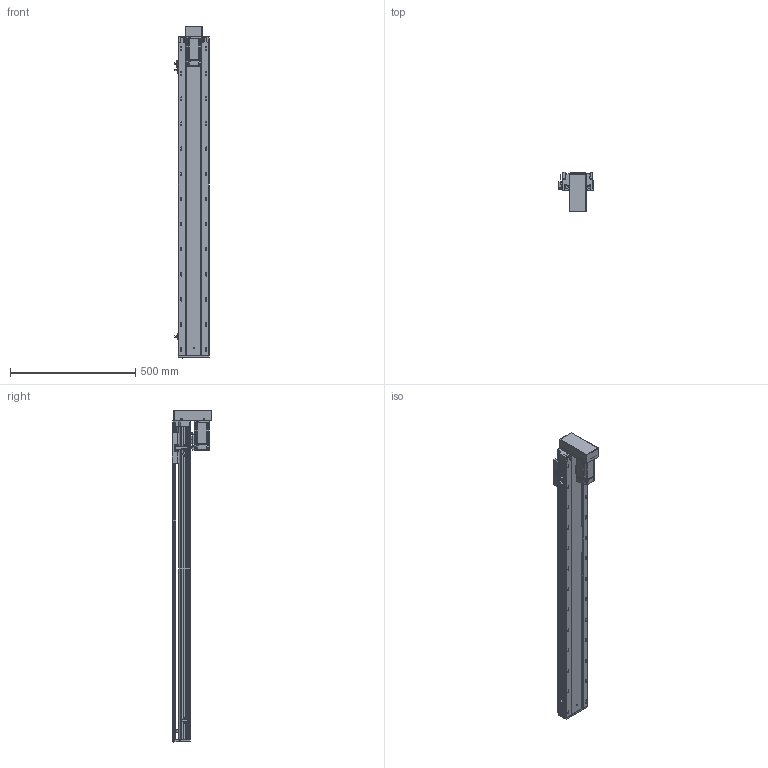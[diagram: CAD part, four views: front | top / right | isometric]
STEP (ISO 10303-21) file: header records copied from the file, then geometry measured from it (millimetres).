
FILE_DESCRIPTION (( 'STEP AP203' ), '1' );
FILE_NAME ('RY120-L2020-1000-BK.SLDASM_1050.step', '2021-03-12T07:20:05', ( '盈信电脑' ), ( '东莞市道滘镇水果街19号' ), 'SwSTEP 2.0', 'SolidWorks 2012', '' );
FILE_SCHEMA (( 'CONFIG_CONTROL_DESIGN' ));
Products named in the file (24): 覜茼ん672; RY120下折折电机安装板; RY120-L2020-1000-BK.SLDASM_1050; RY120-400W萇儂傷-BK; 同步轮3M34齿宽15单边凸台; RY80肮祭湍覃踡啣; RY120狟殏萇儂欶; RY80肮祭湍芢雄輸; 12; 14; 13; 侂狟400W侜督萇儂; 10; 16; 15; 11; 滅袉蝶18-24; RY120外置感应片(140共用）; RY120转拆电端丝杆支撑座(20丝杆，7002轴承); 滅袉蝶18-10; RY120綴裔啣; RY120-1000-BK蛌殏倰第奻裔啣_1050; RY120臏賑輸(20蹟譫); RY120-1000-BK蛌殏倰第菁釱_1050
Assembly tree (27 placements, depth 4):
  RY120-L2020-1000-BK.SLDASM_1050
    RY120-1000-BK蛌殏倰第菁釱_1050
    RY120-1000-BK蛌殏倰第奻裔啣_1050
    RY120臏賑輸(20蹟譫)
    RY120綴裔啣
    覜茼ん672  x3
    滅袉蝶18-10
    滅袉蝶18-24  x2
    RY120外置感应片(140共用）
    RY120转拆电端丝杆支撑座(20丝杆，7002轴承)
    RY120-400W萇儂傷-BK
      侂狟400W侜督萇儂
        15
        16
        10
        11
        12
        13
        14
      RY80肮祭湍芢雄輸  x2
      同步轮3M34齿宽15单边凸台
      RY80肮祭湍覃踡啣
      RY120狟殏萇儂欶
      RY120下折折电机安装板
Bounding box: 135.7 x 159.5 x 1325 mm (x, y, z)
Volume: 3683300 mm3; surface area: 1380561.4 mm2
Topology: 26 solids, 26 shells, 3729 faces, 10157 edges, 6499 vertices
Faces by surface type: plane 1771, cylinder 1544, cone 283, bspline 131
Entity records: 125352 total; most frequent: CARTESIAN_POINT 34716, ORIENTED_EDGE 18830, DIRECTION 17756, EDGE_CURVE 9415, AXIS2_PLACEMENT_3D 6132, VERTEX_POINT 6123, LINE 5492, VECTOR 5492
